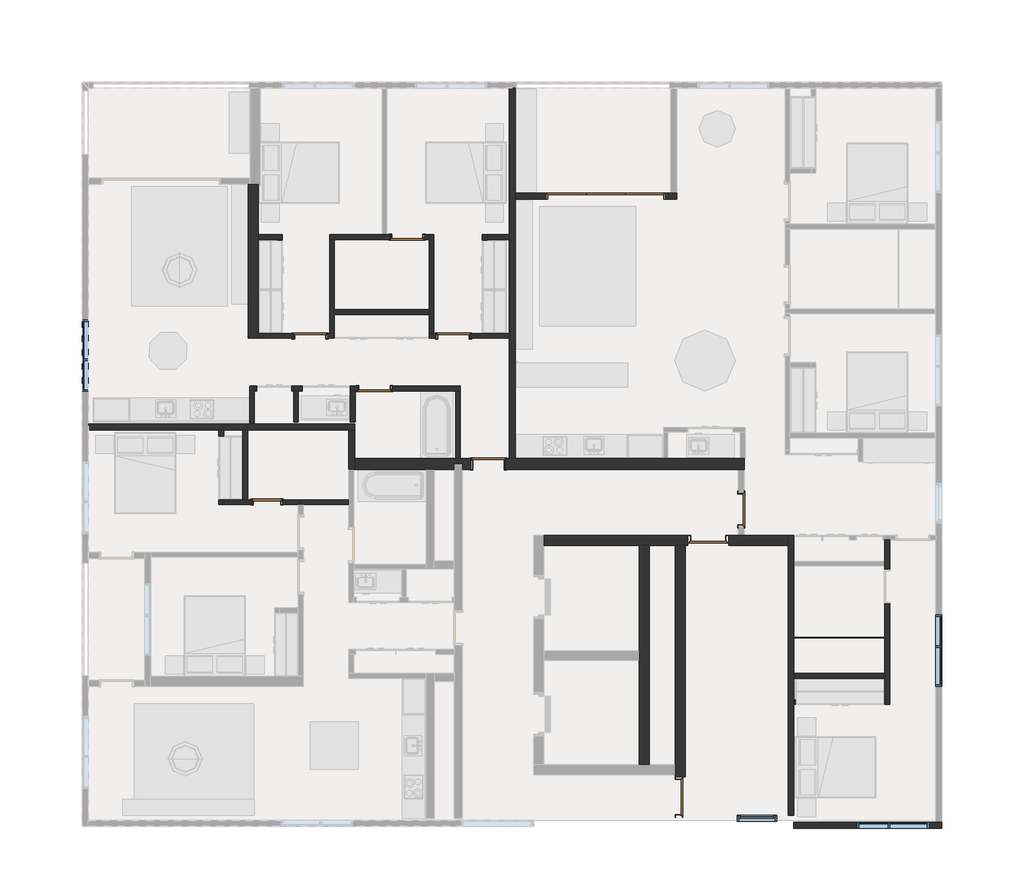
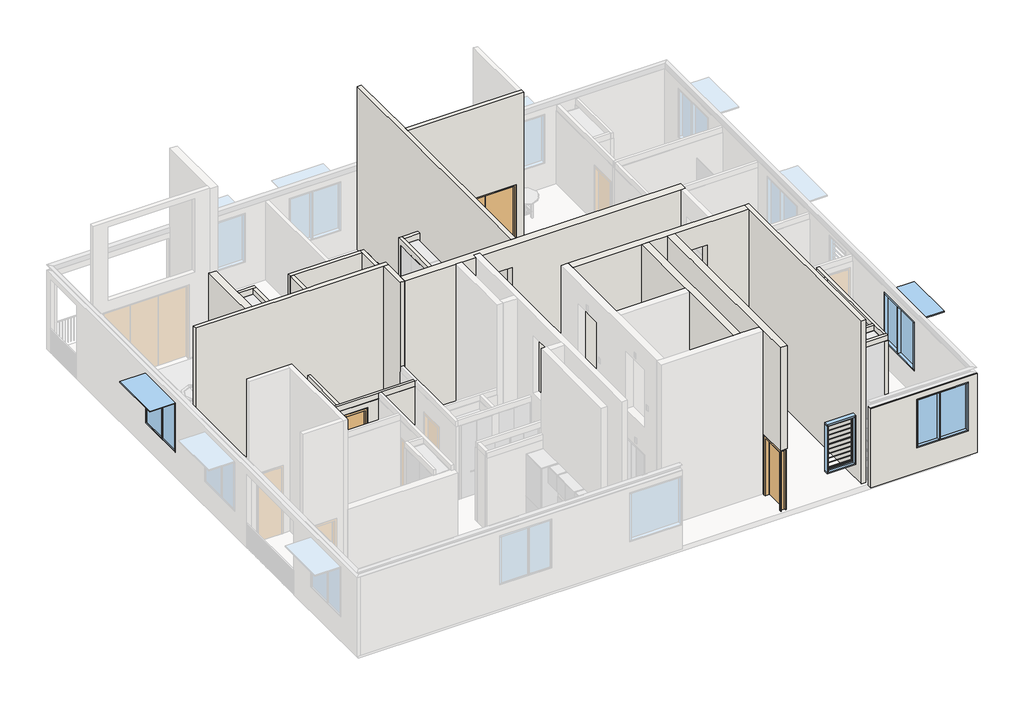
# One storey, part 2 of 5: 31 walls, 11 doors, 4 windows, 1 plate.
"""IFC4 building model written with IfcOpenShell, lengths in millimetres."""

from ifc_helpers import new_model, si_unit, frame, origin, place, context, project, spatial, polyline, outline, extrude, faceted_brep, transform, mapped, element, save
from components import bi_fold_dor_3_panel_3000_24af7ffc, dcw_shower_screen_dcw_shower_screen_0eb16d9f, swing_metal_frame_single_dor_f6efc24d, swing_metal_frame_single_dor_92586886, swing_metal_frame_single_dor_60e0689a, swing_metal_frame_single_dor_f6c9d0f4, swing_metal_frame_single_dor_15e57171, swing_metal_frame_single_dor1_3ff59273, system_panel_glazed_d3338a85, window_bottom_hung_window_bottom_hung_09912109, window_bottom_hung_window_bottom_hung_26d81d5b, window_louvre_window_louvre_92f3ddc7

model = new_model("IFC4")

# Units and contexts
model_context = context("Model", 3, world=origin())
ifc_project = project(units=[si_unit("LENGTHUNIT", "METRE", prefix="MILLI")], contexts=[model_context])

# Site, building, storey
site = spatial("IfcSite", under=ifc_project)
building = spatial("IfcBuilding", under=site)
storey = spatial("IfcBuildingStorey", under=building, Name="9階", Elevation=54700.0)

# Doors
placement = place(None, origin())
bi_fold_dor_3_panel_3000_shape = bi_fold_dor_3_panel_3000_24af7ffc(model_context)
element("IfcDoor", 1, ObjectType="Bi Fold_DOR : 3 Panel - 3000", at=placement, inside=storey, context=model_context, shape_type="MappedRepresentation", body=[
    mapped(bi_fold_dor_3_panel_3000_shape, transform((15499.4454006, 15856.2357347, 54700.0), x_axis=(-1.0, 0.0, 0.0), y_axis=(0.0, -1.0, 0.0), z_axis=(0.0, 0.0, 1.0))),
])
dcw_shower_screen_dcw_shower_screen_shape = dcw_shower_screen_dcw_shower_screen_0eb16d9f(model_context)
element("IfcDoor", 2, ObjectType="DCW_Shower Screen : DCW_Shower Screen", at=placement, inside=storey, context=model_context, shape_type="MappedRepresentation", body=[
    mapped(dcw_shower_screen_dcw_shower_screen_shape, transform((21348.7883819, 4772.9800602, 54700.0), x_axis=(-1.0, 0.0, 0.0), y_axis=(0.0, -1.0, 0.0), z_axis=(0.0, 0.0, 1.0))),
])
swing_metal_frame_single_dor_shape = swing_metal_frame_single_dor_f6efc24d(model_context)
element("IfcDoor", 3, ObjectType="Swing_Metal Frame_Single_DOR : 2140h x 920 (2210x1010 BLK)", at=placement, inside=storey, context=model_context, shape_type="MappedRepresentation", body=[
    mapped(swing_metal_frame_single_dor_shape, transform((17369.6062665, 770.0, 54700.0), x_axis=(0.0, 1.0, 0.0), y_axis=(-1.0, 0.0, 0.0), z_axis=(0.0, 0.0, 1.0))),
])
element("IfcDoor", 4, ObjectType="Swing_Metal Frame_Single_DOR : 2140h x 920 (2210x1010 BLK)", at=placement, inside=storey, context=model_context, shape_type="MappedRepresentation", body=[
    mapped(swing_metal_frame_single_dor_shape, transform((18069.6062665, 7210.0, 54700.0), x_axis=(1.0, 0.0, 0.0), y_axis=(0.0, 1.0, 0.0), z_axis=(0.0, 0.0, 1.0))),
])
swing_metal_frame_single_dor_2_shape = swing_metal_frame_single_dor_92586886(model_context)
element("IfcDoor", 5, ObjectType="Swing_Metal Frame_Single_DOR : 2040h x 820 (2110x920 STUD)", at=placement, inside=storey, context=model_context, shape_type="MappedRepresentation", body=[
    mapped(swing_metal_frame_single_dor_2_shape, transform((9698.1265124, 11027.0338873, 54700.0), x_axis=(1.0, 0.0, 0.0), y_axis=(0.0, 1.0, 0.0), z_axis=(0.0, 0.0, 1.0))),
])
element("IfcDoor", 6, ObjectType="Swing_Metal Frame_Single_DOR : 2040h x 820 (2110x920 STUD)", at=placement, inside=storey, context=model_context, shape_type="MappedRepresentation", body=[
    mapped(swing_metal_frame_single_dor_2_shape, transform((8082.1265124, 12345.0338873, 54700.0), x_axis=(-1.0, 0.0, 0.0), y_axis=(0.0, -1.0, 0.0), z_axis=(0.0, 0.0, 1.0))),
])
swing_metal_frame_single_dor_3_shape = swing_metal_frame_single_dor_60e0689a(model_context)
element("IfcDoor", 7, ObjectType="Swing_Metal Frame_Single_DOR : 2040h x 820 (2110x920 STUD)", at=placement, inside=storey, context=model_context, shape_type="MappedRepresentation", body=[
    mapped(swing_metal_frame_single_dor_3_shape, transform((10516.0156465, 14825.9903494, 54700.0), x_axis=(-1.0, 0.0, 0.0), y_axis=(0.0, -1.0, 0.0), z_axis=(0.0, 0.0, 1.0))),
])
element("IfcDoor", 8, ObjectType="Swing_Metal Frame_Single_DOR : 2040h x 820 (2110x920 STUD)", at=placement, inside=storey, context=model_context, shape_type="MappedRepresentation", body=[
    mapped(swing_metal_frame_single_dor_3_shape, transform((11678.0156465, 12345.0338873, 54700.0), x_axis=(1.0, 0.0, 0.0), y_axis=(0.0, 1.0, 0.0), z_axis=(0.0, 0.0, 1.0))),
])
swing_metal_frame_single_dor_4_shape = swing_metal_frame_single_dor_f6c9d0f4(model_context)
element("IfcDoor", 9, ObjectType="Swing_Metal Frame_Single_DOR : 2040h x 820 (2110x920 STUD)", at=placement, inside=storey, context=model_context, shape_type="MappedRepresentation", body=[
    mapped(swing_metal_frame_single_dor_4_shape, transform((12553.9954006, 9131.2680774, 54700.0), x_axis=(-1.0, 0.0, 0.0), y_axis=(0.0, -1.0, 0.0), z_axis=(0.0, 0.0, 1.0))),
])
swing_metal_frame_single_dor_5_shape = swing_metal_frame_single_dor_15e57171(model_context)
element("IfcDoor", 10, ObjectType="Swing_Metal Frame_Single_DOR : 2040h x 820 (2110x920 STUD)", at=placement, inside=storey, context=model_context, shape_type="MappedRepresentation", body=[
    mapped(swing_metal_frame_single_dor_5_shape, transform((18896.1062665, 7991.2680774, 54700.0), x_axis=(0.0, 1.0, 0.0), y_axis=(-1.0, 0.0, 0.0), z_axis=(0.0, 0.0, 1.0))),
])
swing_metal_frame_single_dor1_shape = swing_metal_frame_single_dor1_3ff59273(model_context)
element("IfcDoor", 11, ObjectType="Swing_Metal Frame_Single_DOR1 : 2040h x 720 (2110x820 STUD)", at=placement, inside=storey, context=model_context, shape_type="MappedRepresentation", body=[
    mapped(swing_metal_frame_single_dor1_shape, transform((7002.6057353, 8173.2680774, 54700.0), x_axis=(1.0, 0.0, 0.0), y_axis=(0.0, 1.0, 0.0), z_axis=(0.0, 0.0, 1.0))),
])

# Plate
system_panel_glazed_shape = system_panel_glazed_d3338a85(model_context)
element("IfcPlate", 12, ObjectType="System Panel : Glazed", at=placement, inside=storey, context=model_context, shape_type="MappedRepresentation", body=[
    mapped(system_panel_glazed_shape, transform((22476.4704973, 4772.9800602, 54700.0), x_axis=(-1.0, 0.0, 0.0), y_axis=(0.0, -1.0, 0.0), z_axis=(0.0, 0.0, 1.0))),
])

# Walls
element("IfcWall", 13, ObjectType="Whte Paint Finish", at=placement, inside=storey, context=model_context, shape_type="Brep", body=[
    faceted_brep([(13228.9954006, 9266.2680774, 54700.0), (13228.9954006, 15781.2357347, 54700.0), (13228.9954006, 15931.2357347, 54700.0), (13228.9954006, 18560.0, 54700.0), (13228.9954006, 18560.0, 60700.0), (13228.9954006, 15931.2357347, 60700.0), (13228.9954006, 15781.2357347, 60700.0), (13228.9954006, 9266.2680774, 60700.0), (13078.9954006, 9266.2680774, 54700.0), (13078.9954006, 9266.2680774, 60700.0), (13078.9954006, 12264.7821797, 60700.0), (13078.9954006, 12382.7821797, 60700.0), (13078.9954006, 14745.7386418, 60700.0), (13078.9954006, 14863.7386418, 60700.0), (13078.9954006, 18560.0, 60700.0), (13078.9954006, 18560.0, 54700.0), (13078.9954006, 14884.9903494, 54700.0), (13078.9954006, 14766.9903494, 54700.0), (13078.9954006, 12404.0338873, 54700.0), (13078.9954006, 12286.0338873, 54700.0)], [[[0, 1, 2, 3, 4, 5, 6, 7]], [[8, 9, 10, 11, 12, 13, 14, 15, 16, 17, 18, 19]], [[3, 2, 1, 0, 8, 19, 18, 17, 16, 15]], [[7, 6, 5, 4, 14, 13, 12, 11, 10, 9]], [[0, 7, 9, 8]], [[4, 3, 15, 14]]]),
])
element("IfcWall", 14, ObjectType="Whte Paint Finish", at=placement, inside=storey, context=model_context, shape_type="Brep", body=[
    faceted_brep([(20221.1062665, 309.0898177, 54700.0), (20221.1062665, 7335.0, 54700.0), (20221.1062665, 7335.0, 60700.0), (20221.1062665, 309.0898177, 60700.0), (20071.1062665, 309.0898177, 54700.0), (20071.1062665, 309.0898177, 60700.0), (20071.1062665, 7085.0, 60700.0), (20071.1062665, 7335.0, 60700.0), (20071.1062665, 7335.0, 54700.0), (20071.1062665, 7085.0, 54700.0)], [[[0, 1, 2, 3]], [[4, 5, 6, 7, 8, 9]], [[1, 0, 4, 9, 8]], [[3, 2, 7, 6, 5]], [[2, 1, 8, 7]], [[0, 3, 5, 4]]]),
])
element("IfcWall", 15, ObjectType="Brickwork_Double_270mm", at=placement, inside=storey, context=model_context, shape_type="Brep", body=[
    faceted_brep([(18971.1062665, 8996.2680774, 60700.0), (18821.1062665, 8996.2680774, 60700.0), (9207.3164613, 8996.2680774, 60700.0), (9207.3164613, 8996.2680774, 54700.0), (12113.9954006, 8996.2680774, 54700.0), (12113.9954006, 8996.2680774, 56790.0), (12993.9954006, 8996.2680774, 56790.0), (12993.9954006, 8996.2680774, 54700.0), (18821.1062665, 8996.2680774, 54700.0), (18971.1062665, 8996.2680774, 54700.0), (11963.9954006, 8996.2680774, 57800.0), (11963.9954006, 8996.2680774, 59890.0), (12943.9954006, 8996.2680774, 59890.0), (12943.9954006, 8996.2680774, 57800.0), (9207.3164613, 9266.2680774, 60700.0), (13078.9954006, 9266.2680774, 60700.0), (13228.9954006, 9266.2680774, 60700.0), (18971.1062665, 9266.2680774, 60700.0), (18971.1062665, 9266.2680774, 54700.0), (13228.9954006, 9266.2680774, 54700.0), (13078.9954006, 9266.2680774, 54700.0), (12993.9954006, 9266.2680774, 54700.0), (12993.9954006, 9266.2680774, 56790.0), (12113.9954006, 9266.2680774, 56790.0), (12113.9954006, 9266.2680774, 54700.0), (9207.3164613, 9266.2680774, 54700.0), (11963.9954006, 9266.2680774, 57800.0), (12943.9954006, 9266.2680774, 57800.0), (12943.9954006, 9266.2680774, 59890.0), (11963.9954006, 9266.2680774, 59890.0)], [[[0, 1, 2, 3, 4, 5, 6, 7, 8, 9], [10, 11, 12, 13]], [[14, 15, 16, 17, 18, 19, 20, 21, 22, 23, 24, 25], [26, 27, 28, 29]], [[18, 9, 8, 7, 21, 20, 19]], [[3, 25, 24, 4]], [[2, 1, 0, 17, 16, 15, 14]], [[0, 9, 18, 17]], [[23, 5, 4, 24]], [[5, 23, 22, 6]], [[6, 22, 21, 7]], [[25, 3, 2, 14]], [[11, 10, 26, 29]], [[12, 11, 29, 28]], [[13, 12, 28, 27]], [[10, 13, 27, 26]]]),
])
element("IfcWall", 16, ObjectType="Whte Paint Finish", at=placement, inside=storey, context=model_context, shape_type="Brep", body=[
    faceted_brep([(2519.6057353, 9989.7821797, 60700.0), (2519.6057353, 9989.7821797, 54700.0), (5794.6057353, 9989.7821797, 54700.0), (5912.6057353, 9989.7821797, 54700.0), (6394.6057353, 9989.7821797, 54700.0), (6512.6057353, 9989.7821797, 54700.0), (9057.3164613, 9989.7821797, 54700.0), (9207.3164613, 9989.7821797, 54700.0), (9207.3164613, 9989.7821797, 60700.0), (9057.3164613, 9989.7821797, 60700.0), (6499.6057353, 9989.7821797, 60700.0), (6407.6057353, 9989.7821797, 60700.0), (5899.6057353, 9989.7821797, 60700.0), (5807.6057353, 9989.7821797, 60700.0), (2519.6057353, 10139.7821797, 54700.0), (2519.6057353, 10139.7821797, 60700.0), (6614.4645991, 10139.7821797, 60700.0), (6732.4645991, 10139.7821797, 60700.0), (9207.3164613, 10139.7821797, 60700.0), (9207.3164613, 10139.7821797, 54700.0), (6685.984845, 10139.7821797, 54700.0), (6567.984845, 10139.7821797, 54700.0)], [[[0, 1, 2, 3, 4, 5, 6, 7, 8, 9, 10, 11, 12, 13]], [[14, 15, 16, 17, 18, 19, 20, 21]], [[7, 6, 5, 4, 3, 2, 1, 14, 21, 20, 19]], [[0, 13, 12, 11, 10, 9, 8, 18, 17, 16, 15]], [[8, 7, 19, 18]], [[0, 15, 14, 1]]]),
])
element("IfcWall", 17, ObjectType="Whte Paint Finish", at=placement, inside=storey, context=model_context, shape_type="Brep", body=[
    faceted_brep([(9207.3164613, 8996.2680774, 60700.0), (9207.3164613, 8996.2680774, 54700.0), (9207.3164613, 9266.2680774, 54700.0), (9207.3164613, 9989.7821797, 54700.0), (9207.3164613, 9989.7821797, 60700.0), (9207.3164613, 9266.2680774, 60700.0), (9057.3164613, 8996.2680774, 54700.0), (9057.3164613, 8996.2680774, 57400.0), (9057.3164613, 8996.2680774, 57800.0), (9057.3164613, 8996.2680774, 60500.0), (9057.3164613, 8996.2680774, 60700.0), (9057.3164613, 9989.7821797, 60700.0), (9057.3164613, 9989.7821797, 54700.0), (9175.3164613, 8996.2680774, 54700.0), (9070.3164613, 8996.2680774, 60700.0), (9162.3164613, 8996.2680774, 60700.0)], [[[0, 1, 2, 3, 4, 5]], [[6, 7, 8, 9, 10, 11, 12]], [[3, 2, 1, 13, 6, 12]], [[0, 5, 4, 11, 10, 14, 15]], [[4, 3, 12, 11]], [[0, 15, 14, 10, 9, 8, 7, 6, 13, 1]]]),
])
element("IfcWall", 18, ObjectType="Whte Paint Finish", at=placement, inside=storey, context=model_context, shape_type="Brep", body=[
    faceted_brep([(17274.4454006, 15781.2357347, 60700.0), (13228.9954006, 15781.2357347, 60700.0), (13228.9954006, 15781.2357347, 54700.0), (13999.4454006, 15781.2357347, 54700.0), (13999.4454006, 15781.2357347, 57400.0), (16999.4454006, 15781.2357347, 57400.0), (16999.4454006, 15781.2357347, 54700.0), (17274.4454006, 15781.2357347, 54700.0), (13228.9954006, 15931.2357347, 60700.0), (17124.4454006, 15931.2357347, 60700.0), (17274.4454006, 15931.2357347, 60700.0), (17274.4454006, 15931.2357347, 54700.0), (17124.4454006, 15931.2357347, 54700.0), (16999.4454006, 15931.2357347, 54700.0), (16999.4454006, 15931.2357347, 57400.0), (13999.4454006, 15931.2357347, 57400.0), (13999.4454006, 15931.2357347, 54700.0), (13228.9954006, 15931.2357347, 54700.0)], [[[0, 1, 2, 3, 4, 5, 6, 7]], [[8, 9, 10, 11, 12, 13, 14, 15, 16, 17]], [[11, 7, 6, 13, 12]], [[2, 17, 16, 3]], [[1, 0, 10, 9, 8]], [[0, 7, 11, 10]], [[2, 1, 8, 17]], [[15, 4, 3, 16]], [[4, 15, 14, 5]], [[5, 14, 13, 6]]]),
])
element("IfcWall", 19, ObjectType="Whte Paint Finish", at=placement, inside=storey, context=model_context, shape_type="Brep", body=[
    faceted_brep([(20219.6062665, -10.0, 57600.0), (23923.6171203, -10.0, 57600.0), (23923.6171203, 140.0, 57600.0), (23773.6171203, 140.0, 57600.0), (20219.6062665, 140.0, 57600.0), (20219.6062665, -10.0, 54700.0), (23923.6171203, -10.0, 54700.0), (21809.6062665, -10.0, 55600.0), (21809.6062665, -10.0, 57400.0), (23609.6062665, -10.0, 57400.0), (23609.6062665, -10.0, 55600.0), (20219.6062665, 140.0, 54700.0), (23923.6171203, 140.0, 54700.0), (23773.6171203, 140.0, 54700.0), (21809.6062665, 140.0, 55600.0), (23609.6062665, 140.0, 55600.0), (23609.6062665, 140.0, 57400.0), (21809.6062665, 140.0, 57400.0)], [[[0, 1, 2, 3, 4]], [[5, 6, 1, 0], [7, 8, 9, 10]], [[11, 4, 3, 2, 12, 13], [14, 15, 16, 17]], [[6, 5, 11, 13, 12]], [[5, 0, 4, 11]], [[1, 6, 12, 2]], [[7, 10, 15, 14]], [[10, 9, 16, 15]], [[9, 8, 17, 16]], [[8, 7, 14, 17]]]),
])
element("IfcWall", 20, ObjectType="A2 - Acoustic Type 2", at=placement, inside=storey, context=model_context, shape_type="Brep", body=[
    faceted_brep([(6528.184845, 16145.0338873, 54700.0), (6528.184845, 12286.0338873, 54700.0), (6528.184845, 12286.0338873, 57600.0), (6528.184845, 16145.0338873, 57600.0), (6778.184845, 16145.0338873, 54700.0), (6778.184845, 16145.0338873, 57600.0), (6778.184845, 14884.9903494, 57600.0), (6778.184845, 14766.9903494, 57600.0), (6778.184845, 12404.0338873, 57600.0), (6778.184845, 12286.0338873, 57600.0), (6778.184845, 12286.0338873, 54700.0), (6778.184845, 12404.0338873, 54700.0), (6778.184845, 14766.9903494, 54700.0), (6778.184845, 14884.9903494, 54700.0)], [[[0, 1, 2, 3]], [[4, 5, 6, 7, 8, 9, 10, 11, 12, 13]], [[1, 0, 4, 13, 12, 11, 10]], [[3, 2, 9, 8, 7, 6, 5]], [[0, 3, 5, 4]], [[2, 1, 10, 9]]]),
])
element("IfcWall", 21, ObjectType="C1 - Concrete Type 3 - 250mm", at=placement, inside=storey, context=model_context, shape_type="Brep", body=[
    faceted_brep([(16594.6062665, 1575.0, 54700.0), (16594.6062665, 7085.0, 54700.0), (16594.6062665, 7085.0, 60700.0), (16594.6062665, 1575.0, 60700.0), (16344.6062665, 1575.0, 54700.0), (16344.6062665, 1575.0, 60700.0), (16344.6062665, 4195.0, 60700.0), (16344.6062665, 4445.0, 60700.0), (16344.6062665, 7085.0, 60700.0), (16344.6062665, 7085.0, 54700.0), (16344.6062665, 4445.0, 54700.0), (16344.6062665, 4195.0, 54700.0)], [[[0, 1, 2, 3]], [[4, 5, 6, 7, 8, 9, 10, 11]], [[1, 0, 4, 11, 10, 9]], [[3, 2, 8, 7, 6, 5]], [[0, 3, 5, 4]], [[2, 1, 9, 8]]]),
])
element("IfcWall", 22, ObjectType="C1 - Concrete Type 3 - 250mm", at=placement, inside=storey, context=model_context, shape_type="Brep", body=[
    faceted_brep([(17494.6062665, 7085.0, 60700.0), (17494.6062665, 309.0898177, 60700.0), (17494.6062665, 309.0898177, 56910.0), (17494.6062665, 1280.0, 56910.0), (17494.6062665, 1280.0, 54700.0), (17494.6062665, 7085.0, 54700.0), (17244.6062665, 309.0898177, 60700.0), (17244.6062665, 1325.0, 60700.0), (17244.6062665, 1575.0, 60700.0), (17244.6062665, 7085.0, 60700.0), (17244.6062665, 7085.0, 54700.0), (17244.6062665, 1575.0, 54700.0), (17244.6062665, 1325.0, 54700.0), (17244.6062665, 1280.0, 54700.0), (17244.6062665, 1280.0, 56910.0), (17244.6062665, 309.0898177, 56910.0)], [[[0, 1, 2, 3, 4, 5]], [[6, 7, 8, 9, 10, 11, 12, 13, 14, 15]], [[10, 5, 4, 13, 12, 11]], [[1, 0, 9, 8, 7, 6]], [[3, 14, 13, 4]], [[14, 3, 2, 15]], [[0, 5, 10, 9]], [[1, 6, 15, 2]]]),
])
element("IfcWall", 23, ObjectType="C1 - Concrete Type 3 - 250mm", at=placement, inside=storey, context=model_context, shape_type="Brep", body=[
    faceted_brep([(20071.1062665, 7085.0, 60700.0), (17494.6062665, 7085.0, 60700.0), (17244.6062665, 7085.0, 60700.0), (16594.6062665, 7085.0, 60700.0), (16344.6062665, 7085.0, 60700.0), (13944.6062665, 7085.0, 60700.0), (13944.6062665, 7085.0, 54700.0), (16344.6062665, 7085.0, 54700.0), (16594.6062665, 7085.0, 54700.0), (17244.6062665, 7085.0, 54700.0), (17494.6062665, 7085.0, 54700.0), (17559.6062665, 7085.0, 54700.0), (17559.6062665, 7085.0, 56910.0), (18579.6062665, 7085.0, 56910.0), (18579.6062665, 7085.0, 54700.0), (20071.1062665, 7085.0, 54700.0), (18622.8562665, 7085.0, 57800.0), (17642.8562665, 7085.0, 57800.0), (17642.8562665, 7085.0, 59890.0), (18622.8562665, 7085.0, 59890.0), (13944.6062665, 7335.0, 60700.0), (18821.1062665, 7335.0, 60700.0), (18971.1062665, 7335.0, 60700.0), (20071.1062665, 7335.0, 60700.0), (20071.1062665, 7335.0, 54700.0), (18971.1062665, 7335.0, 54700.0), (18821.1062665, 7335.0, 54700.0), (18579.6062665, 7335.0, 54700.0), (18579.6062665, 7335.0, 56910.0), (17559.6062665, 7335.0, 56910.0), (17559.6062665, 7335.0, 54700.0), (13944.6062665, 7335.0, 54700.0), (18622.8562665, 7335.0, 57800.0), (18622.8562665, 7335.0, 59890.0), (17642.8562665, 7335.0, 59890.0), (17642.8562665, 7335.0, 57800.0)], [[[0, 1, 2, 3, 4, 5, 6, 7, 8, 9, 10, 11, 12, 13, 14, 15], [16, 17, 18, 19]], [[20, 21, 22, 23, 24, 25, 26, 27, 28, 29, 30, 31], [32, 33, 34, 35]], [[24, 15, 14, 27, 26, 25]], [[6, 31, 30, 11, 10, 9, 8, 7]], [[5, 4, 3, 2, 1, 0, 23, 22, 21, 20]], [[13, 28, 27, 14]], [[28, 13, 12, 29]], [[29, 12, 11, 30]], [[0, 15, 24, 23]], [[6, 5, 20, 31]], [[33, 32, 16, 19]], [[34, 33, 19, 18]], [[35, 34, 18, 17]], [[32, 35, 17, 16]]]),
])
element("IfcWall", 24, ObjectType="P1 - Partition Type 1", at=placement, inside=storey, context=model_context, shape_type="Brep", body=[
    faceted_brep([(6394.6057353, 9989.7821797, 54700.0), (6394.6057353, 8232.2680774, 54700.0), (6394.6057353, 8232.2680774, 57400.0), (6394.6057353, 9989.7821797, 57400.0), (6512.6057353, 8232.2680774, 54700.0), (6512.6057353, 9989.7821797, 54700.0), (6512.6057353, 9989.7821797, 57400.0), (6512.6057353, 8232.2680774, 57400.0), (6499.6057353, 9989.7821797, 57400.0), (6499.6057353, 8232.2680774, 57400.0), (6499.6057353, 9989.7821797, 57600.0), (6499.6057353, 8219.2680774, 57600.0), (6499.6057353, 8219.2680774, 57400.0), (6407.6057353, 8232.2680774, 57400.0), (6407.6057353, 9989.7821797, 57400.0), (6407.6057353, 8219.2680774, 57400.0), (6407.6057353, 8219.2680774, 57600.0), (6407.6057353, 9989.7821797, 57600.0)], [[[0, 1, 2, 3]], [[4, 5, 6, 7]], [[1, 0, 5, 4]], [[7, 6, 8, 9]], [[9, 8, 10, 11, 12]], [[3, 2, 13, 14]], [[14, 13, 15, 16, 17]], [[2, 1, 4, 7, 9, 13]], [[11, 10, 17, 16]], [[15, 13, 9, 12]], [[11, 16, 15, 12]], [[0, 3, 14, 17, 10, 8, 6, 5]]]),
])
element("IfcWall", 25, ObjectType="P1 - Partition Type 1", at=placement, inside=storey, context=model_context, shape_type="Brep", body=[
    faceted_brep([(5794.6057353, 8114.2680774, 54700.0), (5794.6057353, 8114.2680774, 57400.0), (5794.6057353, 8232.2680774, 57400.0), (5794.6057353, 8232.2680774, 54700.0), (5794.6057353, 9989.7821797, 57400.0), (5794.6057353, 9989.7821797, 54700.0), (5794.6057353, 9832.2680774, 54700.0), (5794.6057353, 9832.2680774, 57400.0), (5912.6057353, 8114.2680774, 57400.0), (5912.6057353, 8114.2680774, 54700.0), (5912.6057353, 8232.2680774, 54700.0), (5912.6057353, 8232.2680774, 57400.0), (5912.6057353, 9989.7821797, 54700.0), (5912.6057353, 9989.7821797, 57400.0), (5912.6057353, 9832.2680774, 57400.0), (5912.6057353, 9832.2680774, 54700.0), (5899.6057353, 8127.2680774, 57400.0), (5807.6057353, 8127.2680774, 57400.0), (5807.6057353, 8232.2680774, 57400.0), (5899.6057353, 8232.2680774, 57400.0), (5899.6057353, 8219.2680774, 57400.0), (5899.6057353, 9989.7821797, 57400.0), (5899.6057353, 9832.2680774, 57400.0), (5807.6057353, 9989.7821797, 57400.0), (5807.6057353, 9832.2680774, 57400.0), (5899.6057353, 9989.7821797, 57600.0), (5899.6057353, 8219.2680774, 57600.0), (5899.6057353, 8127.2680774, 57600.0), (5807.6057353, 8127.2680774, 57600.0), (5807.6057353, 9989.7821797, 57600.0)], [[[0, 1, 2, 3]], [[4, 5, 6, 7]], [[8, 9, 10, 11]], [[12, 13, 14, 15]], [[9, 0, 3, 10]], [[5, 12, 15, 6]], [[16, 17, 18, 2, 1, 8, 11, 19, 20]], [[13, 21, 22, 14]], [[23, 4, 7, 24]], [[25, 26, 27, 16, 20, 19, 22, 21]], [[28, 29, 23, 24, 18, 17]], [[24, 22, 19, 18]], [[22, 24, 7, 6, 15, 14]], [[18, 19, 11, 10, 3, 2]], [[1, 0, 9, 8]], [[27, 26, 25, 29, 28]], [[17, 16, 27, 28]], [[5, 4, 23, 29, 25, 21, 13, 12]]]),
])
element("IfcWall", 26, ObjectType="P1 - Partition Type 1", at=placement, inside=storey, context=model_context, shape_type="Brep", body=[
    faceted_brep([(9116.3164613, 8232.2680774, 57400.0), (9116.3164613, 8232.2680774, 54700.0), (7392.6057353, 8232.2680774, 54700.0), (7392.6057353, 8232.2680774, 57190.0), (6612.6057353, 8232.2680774, 57190.0), (6612.6057353, 8232.2680774, 54700.0), (6512.6057353, 8232.2680774, 54700.0), (6394.6057353, 8232.2680774, 54700.0), (5912.6057353, 8232.2680774, 54700.0), (5912.6057353, 8232.2680774, 57400.0), (6394.6057353, 8232.2680774, 57400.0), (6407.6057353, 8232.2680774, 57400.0), (6499.6057353, 8232.2680774, 57400.0), (6512.6057353, 8232.2680774, 57400.0), (9116.3164613, 8114.2680774, 54700.0), (9116.3164613, 8114.2680774, 57400.0), (7907.3164613, 8114.2680774, 57400.0), (7894.3164613, 8114.2680774, 57400.0), (7802.3164613, 8114.2680774, 57400.0), (7789.3164613, 8114.2680774, 57400.0), (5912.6057353, 8114.2680774, 57400.0), (5912.6057353, 8114.2680774, 54700.0), (6612.6057353, 8114.2680774, 54700.0), (6612.6057353, 8114.2680774, 57190.0), (7392.6057353, 8114.2680774, 57190.0), (7392.6057353, 8114.2680774, 54700.0), (7789.3164613, 8114.2680774, 54700.0), (7907.3164613, 8114.2680774, 54700.0), (9116.3164613, 8219.2680774, 57400.0), (9116.3164613, 8219.2680774, 57600.0), (9116.3164613, 8127.2680774, 57600.0), (9116.3164613, 8127.2680774, 57400.0), (7894.3164613, 8127.2680774, 57400.0), (7802.3164613, 8127.2680774, 57400.0), (5912.6057353, 8127.2680774, 57400.0), (7894.3164613, 8127.2680774, 57600.0), (7802.3164613, 8127.2680774, 57600.0), (5899.6057353, 8127.2680774, 57600.0), (5899.6057353, 8127.2680774, 57400.0), (5912.6057353, 8219.2680774, 57400.0), (6407.6057353, 8219.2680774, 57400.0), (6499.6057353, 8219.2680774, 57400.0), (5899.6057353, 8219.2680774, 57400.0), (5899.6057353, 8219.2680774, 57600.0), (6407.6057353, 8219.2680774, 57600.0), (6499.6057353, 8219.2680774, 57600.0)], [[[0, 1, 2, 3, 4, 5, 6, 7, 8, 9, 10, 11, 12, 13]], [[14, 15, 16, 17, 18, 19, 20, 21, 22, 23, 24, 25, 26, 27]], [[1, 14, 27, 26, 25, 2]], [[5, 22, 21, 8, 7, 6]], [[1, 0, 28, 29, 30, 31, 15, 14]], [[15, 31, 32, 33, 34, 20, 19, 18, 17, 16]], [[31, 30, 35, 36, 37, 38, 34, 33, 32]], [[28, 0, 13, 12, 11, 10, 9, 39, 40, 41]], [[29, 28, 41, 40, 39, 42, 43, 44, 45]], [[3, 2, 25, 24]], [[4, 3, 24, 23]], [[5, 4, 23, 22]], [[9, 8, 21, 20, 34, 39]], [[30, 29, 45, 44, 43, 37, 36, 35]], [[42, 39, 34, 38]], [[37, 43, 42, 38]]]),
])
element("IfcWall", 27, ObjectType="P1 - Partition Type 1", at=placement, inside=storey, context=model_context, shape_type="Brep", body=[
    faceted_brep([(22619.4704973, 7230.0, 57400.0), (22619.4704973, 3213.9800602, 57400.0), (22619.4704973, 3213.9800602, 54700.0), (22619.4704973, 5612.9800602, 54700.0), (22619.4704973, 5612.9800602, 57190.0), (22619.4704973, 6492.9800602, 57190.0), (22619.4704973, 6492.9800602, 54700.0), (22619.4704973, 7230.0, 54700.0), (22501.4704973, 3213.9800602, 57400.0), (22501.4704973, 3754.9800602, 57400.0), (22501.4704973, 3872.9800602, 57400.0), (22501.4704973, 6572.9800602, 57400.0), (22501.4704973, 6690.9800602, 57400.0), (22501.4704973, 7230.0, 57400.0), (22501.4704973, 7230.0, 54700.0), (22501.4704973, 6690.9800602, 54700.0), (22501.4704973, 6572.9800602, 54700.0), (22501.4704973, 6492.9800602, 54700.0), (22501.4704973, 6492.9800602, 57190.0), (22501.4704973, 5612.9800602, 57190.0), (22501.4704973, 5612.9800602, 54700.0), (22501.4704973, 3872.9800602, 54700.0), (22501.4704973, 3754.9800602, 54700.0), (22501.4704973, 3213.9800602, 54700.0), (22514.4704973, 3213.9800602, 57400.0), (22514.4704973, 3767.9800602, 57400.0), (22514.4704973, 3859.9800602, 57400.0), (22514.4704973, 6585.9800602, 57400.0), (22514.4704973, 6677.9800602, 57400.0), (22514.4704973, 7230.0, 57400.0), (22514.4704973, 3200.9800602, 57400.0), (22514.4704973, 3200.9800602, 57600.0), (22514.4704973, 3767.9800602, 57600.0), (22514.4704973, 3859.9800602, 57600.0), (22514.4704973, 6585.9800602, 57600.0), (22514.4704973, 6677.9800602, 57600.0), (22514.4704973, 7243.0, 57600.0), (22514.4704973, 7243.0, 57400.0), (22606.4704973, 7230.0, 57400.0), (22606.4704973, 3213.9800602, 57400.0), (22606.4704973, 7243.0, 57400.0), (22606.4704973, 7243.0, 57600.0), (22606.4704973, 3200.9800602, 57600.0), (22606.4704973, 3200.9800602, 57400.0)], [[[0, 1, 2, 3, 4, 5, 6, 7]], [[8, 9, 10, 11, 12, 13, 14, 15, 16, 17, 18, 19, 20, 21, 22, 23]], [[2, 23, 22, 21, 20, 3]], [[14, 7, 6, 17, 16, 15]], [[13, 12, 11, 10, 9, 8, 24, 25, 26, 27, 28, 29]], [[29, 28, 27, 26, 25, 24, 30, 31, 32, 33, 34, 35, 36, 37]], [[1, 0, 38, 39]], [[39, 38, 40, 41, 42, 43]], [[19, 4, 3, 20]], [[4, 19, 18, 5]], [[5, 18, 17, 6]], [[2, 1, 39, 24, 8, 23]], [[30, 24, 39, 43]], [[42, 31, 30, 43]], [[0, 7, 14, 13, 29, 38]], [[31, 42, 41, 36, 35, 34, 33, 32]], [[40, 38, 29, 37]], [[36, 41, 40, 37]]]),
])
element("IfcWall", 28, ObjectType="P1 - Partition Type 1", at=placement, inside=storey, context=model_context, shape_type="Brep", body=[
    faceted_brep([(20246.1062665, 3213.9800602, 54700.0), (20246.1062665, 3213.9800602, 57400.0), (20251.4704973, 3213.9800602, 57400.0), (20251.4704973, 3213.9800602, 54700.0), (22619.4704973, 3213.9800602, 57400.0), (22619.4704973, 3213.9800602, 54700.0), (22501.4704973, 3213.9800602, 54700.0), (22501.4704973, 3213.9800602, 57400.0), (20246.1062665, 3095.9800602, 57400.0), (20246.1062665, 3095.9800602, 54700.0), (20251.4704973, 3095.9800602, 54700.0), (20251.4704973, 3095.9800602, 57400.0), (22619.4704973, 3095.9800602, 54700.0), (22619.4704973, 3095.9800602, 57400.0), (22501.4704973, 3095.9800602, 57400.0), (22501.4704973, 3095.9800602, 54700.0), (20246.1062665, 3108.9800602, 57400.0), (20246.1062665, 3108.9800602, 57600.0), (20246.1062665, 3200.9800602, 57600.0), (20246.1062665, 3200.9800602, 57400.0), (20251.4704973, 3108.9800602, 57400.0), (20251.4704973, 3200.9800602, 57400.0), (22606.4704973, 3200.9800602, 57400.0), (22606.4704973, 3108.9800602, 57400.0), (22501.4704973, 3108.9800602, 57400.0), (22501.4704973, 3200.9800602, 57400.0), (22514.4704973, 3200.9800602, 57400.0), (22606.4704973, 3108.9800602, 57600.0), (22514.4704973, 3200.9800602, 57600.0), (22606.4704973, 3200.9800602, 57600.0)], [[[0, 1, 2, 3]], [[4, 5, 6, 7]], [[8, 9, 10, 11]], [[12, 13, 14, 15]], [[9, 0, 3, 10]], [[5, 12, 15, 6]], [[1, 0, 9, 8, 16, 17, 18, 19]], [[16, 8, 11, 20]], [[1, 19, 21, 2]], [[22, 23, 24, 14, 13, 4, 7, 25, 26]], [[17, 16, 20, 24, 23, 27]], [[19, 18, 28, 29, 22, 26, 25, 21]], [[18, 17, 27, 29, 28]], [[20, 21, 25, 24]], [[21, 20, 11, 10, 3, 2]], [[24, 25, 7, 6, 15, 14]], [[5, 4, 13, 12]], [[23, 22, 29, 27]]]),
])
element("IfcWall", 29, ObjectType="P1 - Partition Type 1", at=placement, inside=storey, context=model_context, shape_type="Brep", body=[
    faceted_brep([(22501.4704973, 3872.9800602, 54700.0), (20246.1062665, 3872.9800602, 54700.0), (20246.1062665, 3872.9800602, 57400.0), (22501.4704973, 3872.9800602, 57400.0), (20246.1062665, 3754.9800602, 54700.0), (22501.4704973, 3754.9800602, 54700.0), (22501.4704973, 3754.9800602, 57400.0), (20246.1062665, 3754.9800602, 57400.0), (20246.1062665, 3767.9800602, 57400.0), (20246.1062665, 3767.9800602, 57600.0), (20246.1062665, 3859.9800602, 57600.0), (20246.1062665, 3859.9800602, 57400.0), (22501.4704973, 3767.9800602, 57400.0), (22514.4704973, 3767.9800602, 57400.0), (22514.4704973, 3767.9800602, 57600.0), (22501.4704973, 3859.9800602, 57400.0), (22514.4704973, 3859.9800602, 57600.0), (22514.4704973, 3859.9800602, 57400.0)], [[[0, 1, 2, 3]], [[4, 5, 6, 7]], [[1, 0, 5, 4]], [[2, 1, 4, 7, 8, 9, 10, 11]], [[7, 6, 12, 8]], [[9, 8, 12, 13, 14]], [[3, 2, 11, 15]], [[15, 11, 10, 16, 17]], [[16, 10, 9, 14]], [[0, 3, 15, 12, 6, 5]], [[13, 12, 15, 17]], [[16, 14, 13, 17]]]),
])
element("IfcWall", 30, ObjectType="P1 - Partition Type 1", at=placement, inside=storey, context=model_context, shape_type="Brep", body=[
    faceted_brep([(6778.184845, 14766.9903494, 54700.0), (7270.0156465, 14766.9903494, 54700.0), (7388.0156465, 14766.9903494, 54700.0), (7388.0156465, 14766.9903494, 57600.0), (7270.0156465, 14766.9903494, 57600.0), (6778.184845, 14766.9903494, 57600.0), (6778.184845, 14884.9903494, 54700.0), (6778.184845, 14884.9903494, 57600.0), (7388.0156465, 14884.9903494, 57600.0), (7388.0156465, 14884.9903494, 54700.0)], [[[0, 1, 2, 3, 4, 5]], [[6, 7, 8, 9]], [[2, 1, 0, 6, 9]], [[3, 2, 9, 8]], [[0, 5, 7, 6]], [[5, 4, 3, 8, 7]]]),
])
element("IfcWall", 31, ObjectType="P1 - Partition Type 1", at=placement, inside=storey, context=model_context, shape_type="Brep", body=[
    faceted_brep([(8570.0156465, 14766.9903494, 54700.0), (8570.0156465, 12404.0338873, 54700.0), (8570.0156465, 12404.0338873, 57600.0), (8570.0156465, 14766.9903494, 57600.0), (8688.0156465, 14766.9903494, 54700.0), (8688.0156465, 14766.9903494, 57600.0), (8688.0156465, 13002.0338873, 57600.0), (8688.0156465, 12884.0338873, 57600.0), (8688.0156465, 12404.0338873, 57600.0), (8688.0156465, 12404.0338873, 57500.0), (8688.0156465, 12404.0338873, 54700.0), (8688.0156465, 12884.0338873, 54700.0), (8688.0156465, 13002.0338873, 54700.0)], [[[0, 1, 2, 3]], [[4, 5, 6, 7, 8, 9, 10, 11, 12]], [[1, 0, 4, 12, 11, 10]], [[0, 3, 5, 4]], [[2, 1, 10, 9, 8]], [[3, 2, 8, 7, 6, 5]]]),
])
element("IfcWall", 32, ObjectType="P1 - Partition Type 1", at=placement, inside=storey, context=model_context, shape_type="Brep", body=[
    faceted_brep([(12406.0156465, 14884.9903494, 54700.0), (12406.0156465, 14754.0338873, 54700.0), (12406.0156465, 14754.0338873, 57400.0), (12406.0156465, 12404.0338873, 57400.0), (12406.0156465, 12404.0338873, 57600.0), (12406.0156465, 14884.9903494, 57600.0), (12524.0156465, 14754.0338873, 54700.0), (12524.0156465, 14766.9903494, 54700.0), (12524.0156465, 14884.9903494, 54700.0), (12524.0156465, 14884.9903494, 57600.0), (12524.0156465, 14766.9903494, 57600.0), (12524.0156465, 12404.0338873, 57600.0), (12524.0156465, 12404.0338873, 57400.0), (12524.0156465, 14754.0338873, 57400.0)], [[[0, 1, 2, 3, 4, 5]], [[6, 7, 8, 9, 10, 11, 12, 13]], [[1, 0, 8, 7, 6]], [[2, 13, 12, 3]], [[13, 2, 1, 6]], [[0, 5, 9, 8]], [[11, 4, 3, 12]], [[5, 4, 11, 10, 9]]]),
])
element("IfcWall", 33, ObjectType="P1 - Partition Type 1", at=placement, inside=storey, context=model_context, shape_type="SweptSolid", body=[
    extrude(outline(polyline([(11730.1265124, 9287.519785), (11730.1265124, 10968.0338873), (11848.1265124, 10968.0338873), (11848.1265124, 9287.519785), (11730.1265124, 9287.519785)])), frame((0.0, 0.0, 54700.0), z_axis=(0.0, 0.0, 1.0), x_axis=(1.0, 0.0, 0.0)), (0.0, 0.0, 1.0), 2900.0),
])
element("IfcWall", 34, ObjectType="P1 - Partition Type 1", at=placement, inside=storey, context=model_context, shape_type="Brep", body=[
    faceted_brep([(11848.1265124, 11086.0338873, 54700.0), (10138.1265124, 11086.0338873, 54700.0), (10138.1265124, 11086.0338873, 56790.0), (9258.1265124, 11086.0338873, 56790.0), (9258.1265124, 11086.0338873, 54700.0), (9090.1265124, 11086.0338873, 54700.0), (9090.1265124, 11086.0338873, 57500.0), (7890.1265124, 11086.0338873, 57500.0), (7890.1265124, 11086.0338873, 54700.0), (7625.984845, 11086.0338873, 54700.0), (7625.984845, 11086.0338873, 57500.0), (6745.984845, 11086.0338873, 57500.0), (6745.984845, 11086.0338873, 54700.0), (6685.984845, 11086.0338873, 54700.0), (6685.984845, 11086.0338873, 57600.0), (11848.1265124, 11086.0338873, 57600.0), (10138.1265124, 10968.0338873, 54700.0), (11730.1265124, 10968.0338873, 54700.0), (11848.1265124, 10968.0338873, 54700.0), (11848.1265124, 10968.0338873, 57600.0), (11730.1265124, 10968.0338873, 57600.0), (9208.1265124, 10968.0338873, 57600.0), (9090.1265124, 10968.0338873, 57600.0), (7790.1265124, 10968.0338873, 57600.0), (7672.1265124, 10968.0338873, 57600.0), (6685.984845, 10968.0338873, 57600.0), (6685.984845, 10968.0338873, 54700.0), (6745.984845, 10968.0338873, 54700.0), (6745.984845, 10968.0338873, 57500.0), (7625.984845, 10968.0338873, 57500.0), (7625.984845, 10968.0338873, 54700.0), (7672.1265124, 10968.0338873, 54700.0), (7790.1265124, 10968.0338873, 54700.0), (7890.1265124, 10968.0338873, 54700.0), (7890.1265124, 10968.0338873, 57500.0), (9090.1265124, 10968.0338873, 57500.0), (9090.1265124, 10968.0338873, 54700.0), (9208.1265124, 10968.0338873, 54700.0), (9258.1265124, 10968.0338873, 54700.0), (9258.1265124, 10968.0338873, 56790.0), (10138.1265124, 10968.0338873, 56790.0)], [[[0, 1, 2, 3, 4, 5, 6, 7, 8, 9, 10, 11, 12, 13, 14, 15]], [[16, 17, 18, 19, 20, 21, 22, 23, 24, 25, 26, 27, 28, 29, 30, 31, 32, 33, 34, 35, 36, 37, 38, 39, 40]], [[1, 0, 18, 17, 16]], [[4, 38, 37, 36, 5]], [[30, 9, 8, 33, 32, 31]], [[12, 27, 26, 13]], [[40, 2, 1, 16]], [[2, 40, 39, 3]], [[3, 39, 38, 4]], [[10, 29, 28, 11]], [[29, 10, 9, 30]], [[11, 28, 27, 12]], [[6, 35, 34, 7]], [[35, 6, 5, 36]], [[7, 34, 33, 8]], [[0, 15, 19, 18]], [[14, 13, 26, 25]], [[15, 14, 25, 24, 23, 22, 21, 20, 19]]]),
])
element("IfcWall", 35, ObjectType="P1 - Partition Type 1", at=placement, inside=storey, context=model_context, shape_type="SweptSolid", body=[
    extrude(outline(polyline([(7790.1265124, 10968.0338873), (7790.1265124, 10186.0338873), (7672.1265124, 10186.0338873), (7672.1265124, 10968.0338873), (7790.1265124, 10968.0338873)])), frame((0.0, 0.0, 54700.0), z_axis=(0.0, 0.0, 1.0), x_axis=(1.0, 0.0, 0.0)), (0.0, 0.0, 1.0), 2900.0),
])
element("IfcWall", 36, ObjectType="P1 - Partition Type 1", at=placement, inside=storey, context=model_context, shape_type="Brep", body=[
    faceted_brep([(7642.1265124, 12404.0338873, 54700.0), (6778.184845, 12404.0338873, 54700.0), (6778.184845, 12404.0338873, 57600.0), (7270.0156465, 12404.0338873, 57600.0), (7388.0156465, 12404.0338873, 57600.0), (8570.0156465, 12404.0338873, 57600.0), (8688.0156465, 12404.0338873, 57600.0), (11068.0156465, 12404.0338873, 57600.0), (11186.0156465, 12404.0338873, 57600.0), (12406.0156465, 12404.0338873, 57600.0), (12524.0156465, 12404.0338873, 57600.0), (13078.9954006, 12404.0338873, 57600.0), (13078.9954006, 12404.0338873, 54700.0), (12118.0156465, 12404.0338873, 54700.0), (12118.0156465, 12404.0338873, 56790.0), (11238.0156465, 12404.0338873, 56790.0), (11238.0156465, 12404.0338873, 54700.0), (11186.0156465, 12404.0338873, 54700.0), (11068.0156465, 12404.0338873, 54700.0), (11068.0156465, 12404.0338873, 57500.0), (8688.0156465, 12404.0338873, 57500.0), (8688.0156465, 12404.0338873, 54700.0), (8570.0156465, 12404.0338873, 54700.0), (8522.1265124, 12404.0338873, 54700.0), (8522.1265124, 12404.0338873, 56790.0), (7642.1265124, 12404.0338873, 56790.0), (6778.184845, 12286.0338873, 54700.0), (7642.1265124, 12286.0338873, 54700.0), (7642.1265124, 12286.0338873, 56790.0), (8522.1265124, 12286.0338873, 56790.0), (8522.1265124, 12286.0338873, 54700.0), (8688.0156465, 12286.0338873, 54700.0), (8688.0156465, 12286.0338873, 57500.0), (11068.0156465, 12286.0338873, 57500.0), (11068.0156465, 12286.0338873, 54700.0), (11238.0156465, 12286.0338873, 54700.0), (11238.0156465, 12286.0338873, 56790.0), (12118.0156465, 12286.0338873, 56790.0), (12118.0156465, 12286.0338873, 54700.0), (13078.9954006, 12286.0338873, 54700.0), (13078.9954006, 12286.0338873, 57600.0), (6778.184845, 12286.0338873, 57600.0)], [[[0, 1, 2, 3, 4, 5, 6, 7, 8, 9, 10, 11, 12, 13, 14, 15, 16, 17, 18, 19, 20, 21, 22, 23, 24, 25]], [[26, 27, 28, 29, 30, 31, 32, 33, 34, 35, 36, 37, 38, 39, 40, 41]], [[1, 0, 27, 26]], [[30, 23, 22, 21, 31]], [[13, 12, 39, 38]], [[16, 35, 34, 18, 17]], [[25, 28, 27, 0]], [[28, 25, 24, 29]], [[29, 24, 23, 30]], [[14, 13, 38, 37]], [[15, 14, 37, 36]], [[16, 15, 36, 35]], [[32, 20, 19, 33]], [[20, 32, 31, 21]], [[33, 19, 18, 34]], [[2, 1, 26, 41]], [[11, 10, 9, 8, 7, 6, 5, 4, 3, 2, 41, 40]], [[12, 11, 40, 39]]]),
])
element("IfcWall", 37, ObjectType="P1 - Partition Type 1", at=placement, inside=storey, context=model_context, shape_type="Brep", body=[
    faceted_brep([(9090.1265124, 10968.0338873, 54700.0), (9090.1265124, 10186.0338873, 54700.0), (9090.1265124, 10186.0338873, 57600.0), (9090.1265124, 10968.0338873, 57600.0), (9090.1265124, 10968.0338873, 57500.0), (9208.1265124, 10968.0338873, 54700.0), (9208.1265124, 10968.0338873, 57600.0), (9208.1265124, 10186.0338873, 57600.0), (9208.1265124, 10186.0338873, 54700.0)], [[[0, 1, 2, 3, 4]], [[5, 6, 7, 8]], [[1, 0, 5, 8]], [[2, 1, 8, 7]], [[0, 4, 3, 6, 5]], [[3, 2, 7, 6]]]),
])
element("IfcWall", 38, ObjectType="P1 - Partition Type 1", at=placement, inside=storey, context=model_context, shape_type="SweptSolid", body=[
    extrude(outline(polyline([(13078.9954006, 14766.9903494), (12524.0156465, 14766.9903494), (12524.0156465, 14884.9903494), (13078.9954006, 14884.9903494), (13078.9954006, 14766.9903494)])), frame((0.0, 0.0, 54700.0), z_axis=(0.0, 0.0, 1.0), x_axis=(1.0, 0.0, 0.0)), (0.0, 0.0, 1.0), 2900.0),
])
element("IfcWall", 39, ObjectType="P1 - Partition Type 1", at=placement, inside=storey, context=model_context, shape_type="Brep", body=[
    faceted_brep([(11068.0156465, 14884.9903494, 54700.0), (11068.0156465, 14766.9903494, 54700.0), (11068.0156465, 13002.0338873, 54700.0), (11068.0156465, 12884.0338873, 54700.0), (11068.0156465, 12404.0338873, 54700.0), (11068.0156465, 12404.0338873, 57500.0), (11068.0156465, 12404.0338873, 57600.0), (11068.0156465, 12884.0338873, 57600.0), (11068.0156465, 13002.0338873, 57600.0), (11068.0156465, 14766.9903494, 57600.0), (11068.0156465, 14884.9903494, 57600.0), (11186.0156465, 14884.9903494, 54700.0), (11186.0156465, 14884.9903494, 57600.0), (11186.0156465, 12404.0338873, 57600.0), (11186.0156465, 12404.0338873, 54700.0)], [[[0, 1, 2, 3, 4, 5, 6, 7, 8, 9, 10]], [[11, 12, 13, 14]], [[4, 3, 2, 1, 0, 11, 14]], [[0, 10, 12, 11]], [[6, 5, 4, 14, 13]], [[10, 9, 8, 7, 6, 13, 12]]]),
])
element("IfcWall", 40, ObjectType="P1 - Partition Type 1", at=placement, inside=storey, context=model_context, shape_type="SweptSolid", body=[
    extrude(outline(polyline([(14754.0338873, 57400.0), (12404.0338873, 57400.0), (12404.0338873, 57600.0), (14766.9903494, 57600.0), (14766.9903494, 54700.0), (14754.0338873, 54700.0), (14754.0338873, 57400.0)])), frame((7270.0156465, 0.0, 0.0), z_axis=(1.0, 0.0, 0.0), x_axis=(0.0, 1.0, 0.0)), (0.0, 0.0, 1.0), 118.0),
])
element("IfcWall", 41, ObjectType="P1 - Partition Type 1", at=placement, inside=storey, context=model_context, shape_type="Brep", body=[
    faceted_brep([(8570.0156465, 14766.9903494, 57600.0), (8570.0156465, 14766.9903494, 54700.0), (8688.0156465, 14766.9903494, 54700.0), (10076.0156465, 14766.9903494, 54700.0), (10076.0156465, 14766.9903494, 56790.0), (10956.0156465, 14766.9903494, 56790.0), (10956.0156465, 14766.9903494, 54700.0), (11068.0156465, 14766.9903494, 54700.0), (11068.0156465, 14766.9903494, 57600.0), (8688.0156465, 14766.9903494, 57600.0), (8570.0156465, 14884.9903494, 54700.0), (8570.0156465, 14884.9903494, 57600.0), (9888.0156465, 14884.9903494, 57600.0), (10006.0156465, 14884.9903494, 57600.0), (11068.0156465, 14884.9903494, 57600.0), (11068.0156465, 14884.9903494, 54700.0), (10956.0156465, 14884.9903494, 54700.0), (10956.0156465, 14884.9903494, 56790.0), (10076.0156465, 14884.9903494, 56790.0), (10076.0156465, 14884.9903494, 54700.0), (10006.0156465, 14884.9903494, 54700.0), (9888.0156465, 14884.9903494, 54700.0)], [[[0, 1, 2, 3, 4, 5, 6, 7, 8, 9]], [[10, 11, 12, 13, 14, 15, 16, 17, 18, 19, 20, 21]], [[1, 10, 21, 20, 19, 3, 2]], [[15, 7, 6, 16]], [[18, 4, 3, 19]], [[4, 18, 17, 5]], [[5, 17, 16, 6]], [[1, 0, 11, 10]], [[8, 7, 15, 14]], [[0, 9, 8, 14, 13, 12, 11]]]),
])
element("IfcWall", 42, ObjectType="P1 - Partition Type 1", at=placement, inside=storey, context=model_context, shape_type="SweptSolid", body=[
    extrude(outline(polyline([(11068.0156465, 12884.0338873), (8688.0156465, 12884.0338873), (8688.0156465, 13002.0338873), (11068.0156465, 13002.0338873), (11068.0156465, 12884.0338873)])), frame((0.0, 0.0, 54700.0), z_axis=(0.0, 0.0, 1.0), x_axis=(1.0, 0.0, 0.0)), (0.0, 0.0, 1.0), 2900.0),
])
element("IfcWall", 43, ObjectType="P1 - Partition Type 1", at=placement, inside=storey, context=model_context, shape_type="Brep", body=[
    faceted_brep([(6685.984845, 10139.7821797, 54700.0), (6685.984845, 10968.0338873, 54700.0), (6685.984845, 11086.0338873, 54700.0), (6685.984845, 11086.0338873, 57600.0), (6685.984845, 10968.0338873, 57600.0), (6685.984845, 10139.7821797, 57600.0), (6567.984845, 10139.7821797, 54700.0), (6567.984845, 10139.7821797, 57600.0), (6567.984845, 11086.0338873, 57600.0), (6567.984845, 11086.0338873, 54700.0)], [[[0, 1, 2, 3, 4, 5]], [[6, 7, 8, 9]], [[2, 1, 0, 6, 9]], [[3, 2, 9, 8]], [[5, 4, 3, 8, 7]], [[0, 5, 7, 6]]]),
])

# Windows
window_bottom_hung_window_bottom_hung_shape = window_bottom_hung_window_bottom_hung_09912109(model_context)
element("IfcWindow", 44, ObjectType="Window_Bottom Hung : Window_Bottom Hung", at=placement, inside=storey, context=model_context, shape_type="MappedRepresentation", body=[
    mapped(window_bottom_hung_window_bottom_hung_shape, transform((23848.6171203, 4446.2680774, 54600.0), x_axis=(0.0, -1.0, 0.0), y_axis=(1.0, 0.0, 0.0), z_axis=(0.0, 0.0, 1.0))),
])
element("IfcWindow", 45, ObjectType="Window_Bottom Hung : Window_Bottom Hung", at=placement, inside=storey, context=model_context, shape_type="MappedRepresentation", body=[
    mapped(window_bottom_hung_window_bottom_hung_shape, transform((2444.6057353, 11850.7680774, 54600.0), x_axis=(0.0, 1.0, 0.0), y_axis=(-1.0, 0.0, 0.0), z_axis=(0.0, 0.0, 1.0))),
])
window_bottom_hung_window_bottom_hung_2_shape = window_bottom_hung_window_bottom_hung_26d81d5b(model_context)
element("IfcWindow", 46, ObjectType="Window_Bottom Hung : Window_Bottom Hung", at=placement, inside=storey, context=model_context, shape_type="MappedRepresentation", body=[
    mapped(window_bottom_hung_window_bottom_hung_2_shape, transform((22709.6062665, 65.0, 54600.0), x_axis=(1.0, 0.0, 0.0), y_axis=(0.0, 1.0, 0.0), z_axis=(0.0, 0.0, 1.0))),
])
window_louvre_window_louvre_shape = window_louvre_window_louvre_92f3ddc7(model_context)
element("IfcWindow", 47, ObjectType="Window_Louvre : Window_Louvre", at=placement, inside=storey, context=model_context, shape_type="MappedRepresentation", body=[
    mapped(window_louvre_window_louvre_shape, transform((19294.6062665, 174.0898177, 55000.0), x_axis=(-1.0, 0.0, 0.0), y_axis=(0.0, -1.0, 0.0), z_axis=(0.0, 0.0, 1.0))),
])

save(model, "model.ifc")
